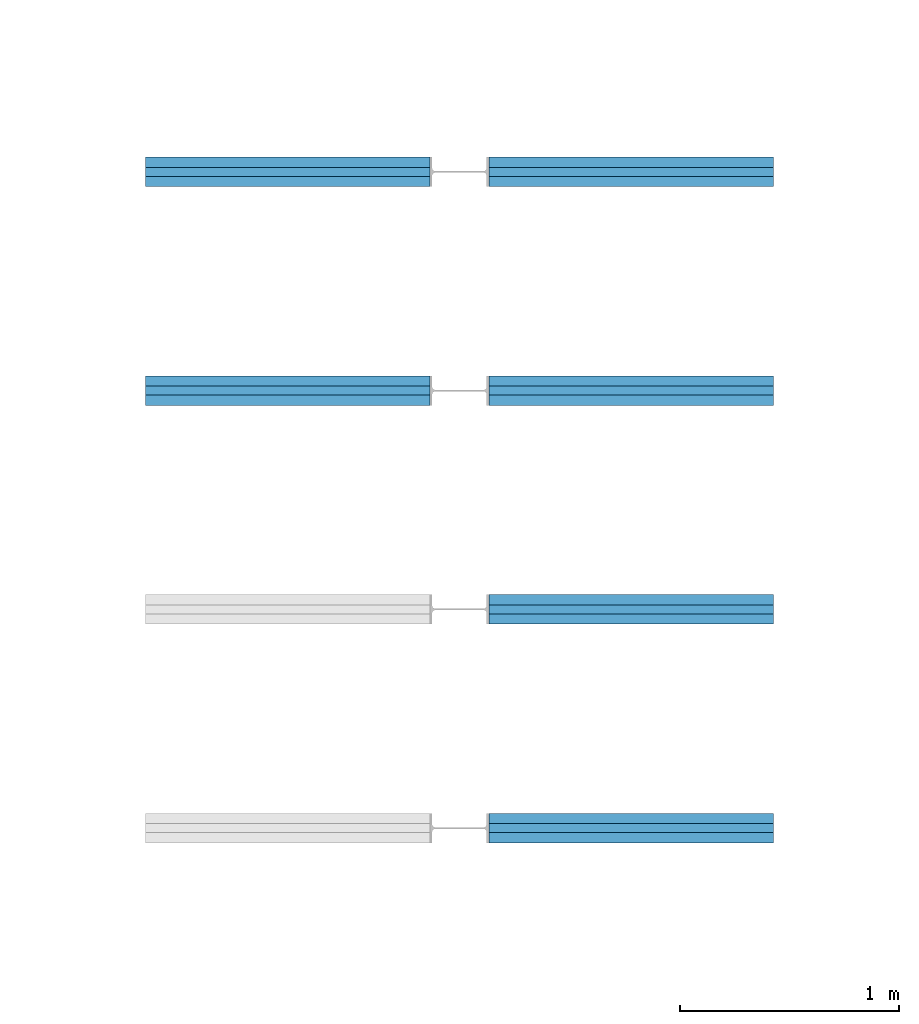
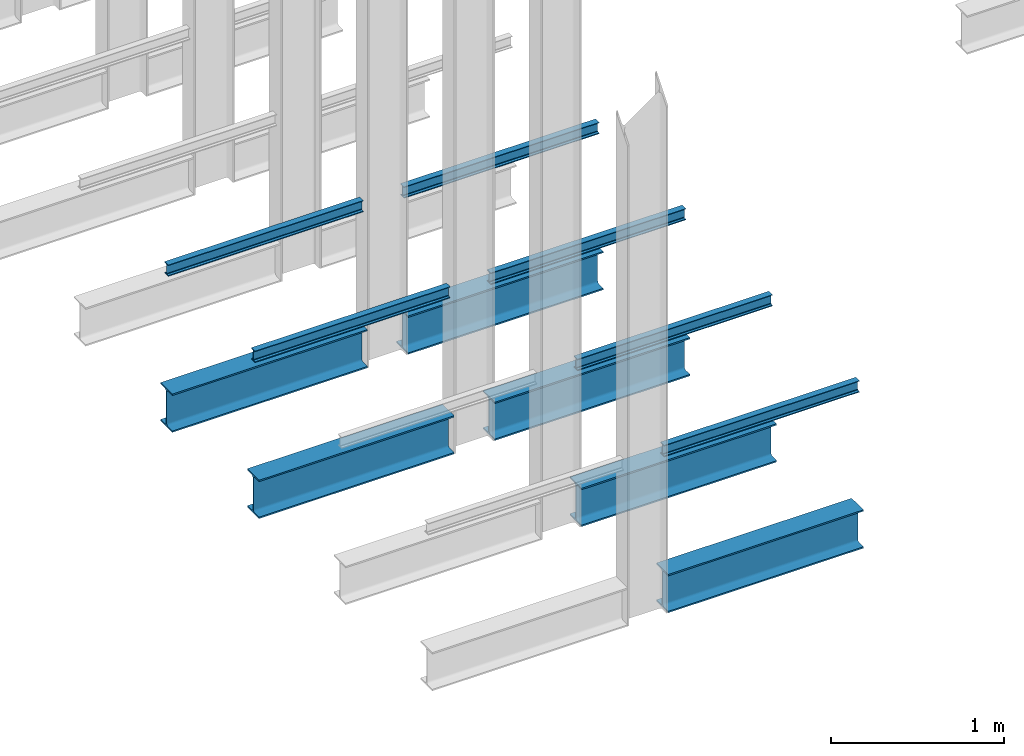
# One storey, part 158 of 302: 12 beams.
"""IFC2X3 building model written with IfcOpenShell, lengths in metres."""

import ifcopenshell
import ifcopenshell.guid

model = None  # the IFC model being written
_history = None  # IfcOwnerHistory: only IFC2X3 demands one
_inside = {}  # id of a spatial element -> (the spatial element, [elements in it])
_under = {}  # id of a project, library or spatial element -> (it, [spatial elements below it])
_declared = {}  # id of a project -> (the project, [libraries it declares])
_typed = {}  # id of a type object -> (the type object, [elements of that type])
_made_of = {}  # id of a material, layer set ... -> (it, [elements and type objects made of it])


def new_model(schema):
    """Start an empty IFC model of exactly this schema.

    Asked for "IFC4X3", IfcOpenShell would pick the latest addendum, in which some entities
    have other attributes; the version numbers below select the first issue.
    IFC2X3 requires an IfcOwnerHistory on every rooted entity: one is made here for all.
    """
    global model, _history
    if schema == "IFC4X3":
        model = ifcopenshell.file(schema_version=(4, 3, 0, 0))
    else:
        model = ifcopenshell.file(schema=schema)
    _inside.clear()
    _under.clear()
    _declared.clear()
    _typed.clear()
    _made_of.clear()
    _history = None
    if model.schema == "IFC2X3":
        org = make("IfcOrganization", Name="unknown")
        user = make(
            "IfcPersonAndOrganization",
            ThePerson=make("IfcPerson", FamilyName="unknown"),
            TheOrganization=org,
        )
        app = make(
            "IfcApplication",
            ApplicationDeveloper=org,
            Version="unknown",
            ApplicationFullName="unknown",
            ApplicationIdentifier="unknown",
        )
        _history = make(
            "IfcOwnerHistory",
            OwningUser=user,
            OwningApplication=app,
            ChangeAction="ADDED",
            CreationDate=0,
        )
    return model


def make(cls, **values):
    """One entity of the class cls with the attributes given. An attribute that is None is left unset."""
    return model.create_entity(
        cls, **{name: value for name, value in values.items() if value is not None}
    )


def entity(cls, *values):
    """Any entity or typed value of the class cls, its attributes in the order of the schema. None: left unset."""
    e = model.create_entity(cls)
    for i, value in enumerate(values):
        if value is not None:
            e[i] = value
    return e


def rooted(cls, **values):
    """An entity with a GlobalId (a new one), such as an element, a storey or a relation."""
    return make(cls, GlobalId=ifcopenshell.guid.new(), OwnerHistory=_history, **values)


def si_unit(unit_type, name, prefix=None):
    """IfcSIUnit, for example si_unit("LENGTHUNIT", "METRE", prefix="MILLI")."""
    return make("IfcSIUnit", UnitType=unit_type, Prefix=prefix, Name=name)


def converted_unit(unit_type, name, factor, base, dimensions=None, offset=None):
    """IfcConversionBasedUnit, such as the inch: factor (a typed value) times the base unit."""
    return make(
        "IfcConversionBasedUnit"
        if offset is None
        else "IfcConversionBasedUnitWithOffset",
        ConversionOffset=offset,
        Dimensions=None
        if dimensions is None
        else entity("IfcDimensionalExponents", *dimensions),
        UnitType=unit_type,
        Name=name,
        ConversionFactor=make(
            "IfcMeasureWithUnit", ValueComponent=factor, UnitComponent=base
        ),
    )


def derived_unit(unit_type, elements):
    """IfcDerivedUnit: a product of units, each with its exponent."""
    return make(
        "IfcDerivedUnit",
        Elements=[
            make("IfcDerivedUnitElement", Unit=unit, Exponent=power)
            for unit, power in elements
        ],
        UnitType=unit_type,
    )


def assignment(units):
    """IfcUnitAssignment: the units of a project."""
    return None if units is None else make("IfcUnitAssignment", Units=units)


def point(xyz):
    """IfcCartesianPoint."""
    return None if xyz is None else make("IfcCartesianPoint", Coordinates=xyz)


def direction(xyz):
    """IfcDirection."""
    return None if xyz is None else make("IfcDirection", DirectionRatios=xyz)


def frame(location, z_axis=None, x_axis=None):
    """IfcAxis2Placement3D, a coordinate frame: its origin and axes. An axis left out is left unset."""
    return make(
        "IfcAxis2Placement3D",
        Location=point(location),
        Axis=direction(z_axis),
        RefDirection=direction(x_axis),
    )


def frame_2d(location, x_axis=None):
    """IfcAxis2Placement2D, a coordinate frame in the plane: its origin and x axis."""
    return make(
        "IfcAxis2Placement2D", Location=point(location), RefDirection=direction(x_axis)
    )


def origin():
    """The frame at (0, 0, 0) with its axes left unset."""
    return frame((0.0, 0.0, 0.0))


def place(relative_to, where):
    """IfcLocalPlacement: puts the frame where relative to a parent placement (None: the world)."""
    return make(
        "IfcLocalPlacement", PlacementRelTo=relative_to, RelativePlacement=where
    )


def context(
    kind, dimensions, precision=None, world=None, true_north=None, identifier=None
):
    """IfcGeometricRepresentationContext, for example the 3D "Model" context."""
    return make(
        "IfcGeometricRepresentationContext",
        ContextIdentifier=identifier,
        ContextType=kind,
        CoordinateSpaceDimension=dimensions,
        Precision=precision,
        WorldCoordinateSystem=world,
        TrueNorth=true_north,
    )


def subcontext(parent, identifier, kind, view, scale=None):
    """IfcGeometricRepresentationSubContext, for example "Body" below "Model"."""
    return make(
        "IfcGeometricRepresentationSubContext",
        ContextIdentifier=identifier,
        ContextType=kind,
        ParentContext=parent,
        TargetScale=scale,
        TargetView=view,
    )


def project(units=None, contexts=None):
    """IfcProject with its units and contexts."""
    return rooted(
        "IfcProject",
        Name="project",
        RepresentationContexts=contexts,
        UnitsInContext=assignment(units),
    )


def spatial(cls, under=None, at=None, **own):
    """A site, building, storey or space (cls), placed at a placement, below another one or the project."""
    s = rooted(cls, ObjectPlacement=at, **own)
    if under is not None:
        _under.setdefault(under.id(), (under, []))[1].append(s)
    return s


def polyline(points):
    """IfcPolyline through the points."""
    return make("IfcPolyline", Points=[point(p) for p in points])


def circle_curve(where, radius):
    """IfcCircle in the frame where."""
    return make("IfcCircle", Position=where, Radius=radius)


def parameter(value):
    """IfcParameterValue: where a trimmed curve begins or ends, as a parameter of its basis curve."""
    return model.create_entity("IfcParameterValue", value)


def trimmed(basis, trim1, trim2, sense, master):
    """IfcTrimmedCurve: the piece of a basis curve between two trims."""
    return make(
        "IfcTrimmedCurve",
        BasisCurve=basis,
        Trim1=trim1,
        Trim2=trim2,
        SenseAgreement=sense,
        MasterRepresentation=master,
    )


def segment(curve, same_sense, transition):
    """IfcCompositeCurveSegment."""
    return make(
        "IfcCompositeCurveSegment",
        Transition=transition,
        SameSense=same_sense,
        ParentCurve=curve,
    )


def composite_curve(segments, self_intersect=None):
    """IfcCompositeCurve: segments joined end to end."""
    return make("IfcCompositeCurve", Segments=segments, SelfIntersect=self_intersect)


def profile(cls, at=None, kind="AREA", **sizes):
    """A parametric profile (cls). Its sizes go by their IFC names, for example OverallWidth=200.0."""
    return make(cls, ProfileType=kind, Position=at, **sizes)


def i_section(**sizes):
    """IfcIShapeProfileDef."""
    return profile("IfcIShapeProfileDef", **sizes)


def outline(outer, holes=None, kind="AREA"):
    """IfcArbitraryClosedProfileDef: a profile drawn as a closed curve; with holes, ...WithVoids."""
    if holes is None:
        return make("IfcArbitraryClosedProfileDef", ProfileType=kind, OuterCurve=outer)
    return make(
        "IfcArbitraryProfileDefWithVoids",
        ProfileType=kind,
        OuterCurve=outer,
        InnerCurves=holes,
    )


def extrude(swept, where, along, depth):
    """IfcExtrudedAreaSolid: the profile swept, set in the frame where, extruded along a direction by depth."""
    return make(
        "IfcExtrudedAreaSolid",
        SweptArea=swept,
        Position=where,
        ExtrudedDirection=direction(along),
        Depth=depth,
    )


def shape(context_of_items, identifier, shape_type, items):
    """IfcShapeRepresentation: the items that make up one representation, for example the "Body"."""
    return make(
        "IfcShapeRepresentation",
        ContextOfItems=context_of_items,
        RepresentationIdentifier=identifier,
        RepresentationType=shape_type,
        Items=items,
    )


def material(Name=None, Category=None):
    """IfcMaterial."""
    return make("IfcMaterial", Name=Name, Category=Category)


def made_of(thing, what):
    """Note that an element or type object is made of a material, layer set ...; save() writes the relation."""
    if what is not None:
        _made_of.setdefault(what.id(), (what, []))[1].append(thing)
    return thing


def type_object(cls, material=None, **own):
    """A type object (cls), such as IfcWallType, which elements share."""
    return made_of(rooted(cls, **own), material)


def element(
    cls,
    number,
    at=None,
    inside=None,
    cuts=None,
    type_object=None,
    material=None,
    context=None,
    identifier="Body",
    shape_type=None,
    held_by="IfcProductDefinitionShape",
    body=None,
    shapes=None,
    **own,
):
    """One element of the class cls, such as IfcWall. Its Tag is "e" and its number.

    at: its placement. inside: the storey or other place that contains it. cuts: it is an
    opening in that element (IfcRelVoidsElement). A single representation is given by context,
    identifier, shape_type and body (its items); several are given by shapes. held_by: the class
    of the entity that holds the representations. save() writes the other relations.
    """
    e = rooted(cls, Tag="e%d" % number, ObjectPlacement=at, **own)
    if body is not None:
        shapes = [shape(context, identifier, shape_type, body)]
    if shapes is not None:
        e.Representation = make(held_by, Representations=shapes)
    if inside is not None:
        _inside.setdefault(inside.id(), (inside, []))[1].append(e)
    if cuts is not None:
        rooted(
            "IfcRelVoidsElement", RelatingBuildingElement=cuts, RelatedOpeningElement=e
        )
    if type_object is not None:
        _typed.setdefault(type_object.id(), (type_object, []))[1].append(e)
    return made_of(e, material)


def aggregate(whole, parts):
    """IfcRelAggregates: a whole, such as a stair, and the parts it consists of."""
    return rooted("IfcRelAggregates", RelatingObject=whole, RelatedObjects=parts)


def save(model, path):
    """Write the relations noted so far, then the file.

    IfcRelAggregates (storeys below a building ...), IfcRelContainedInSpatialStructure (elements
    in a storey), IfcRelDefinesByType, IfcRelAssociatesMaterial and IfcRelDeclares: one each for
    every whole, place, type object, material and project.
    """
    for whole, parts in _under.values():
        aggregate(whole, parts)
    for where, things in _inside.values():
        rooted(
            "IfcRelContainedInSpatialStructure",
            RelatedElements=things,
            RelatingStructure=where,
        )
    for kind, things in _typed.values():
        rooted("IfcRelDefinesByType", RelatedObjects=things, RelatingType=kind)
    for what, things in _made_of.values():
        rooted("IfcRelAssociatesMaterial", RelatedObjects=things, RelatingMaterial=what)
    for by, libraries in _declared.values():
        rooted("IfcRelDeclares", RelatingContext=by, RelatedDefinitions=libraries)
    model.write(path)


model = new_model("IFC2X3")

# Units and contexts
model_context = context("Model", 3, precision=1e-05, world=origin(), true_north=direction((6.12303176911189e-17, 1.0)))
body_context = subcontext(model_context, "Body", "Model", "MODEL_VIEW")
ifc_project = project(units=[si_unit("LENGTHUNIT", "METRE"), si_unit("AREAUNIT", "SQUARE_METRE"), si_unit("VOLUMEUNIT", "CUBIC_METRE"), converted_unit("PLANEANGLEUNIT", "DEGREE", entity("IfcRatioMeasure", 0.0174532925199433), si_unit("PLANEANGLEUNIT", "RADIAN"), dimensions=[0, 0, 0, 0, 0, 0, 0]), si_unit("MASSUNIT", "GRAM", prefix="KILO"), derived_unit("MASSDENSITYUNIT", [(si_unit("MASSUNIT", "GRAM", prefix="KILO"), 1), (si_unit("LENGTHUNIT", "METRE"), -3)]), derived_unit("MOMENTOFINERTIAUNIT", [(si_unit("LENGTHUNIT", "METRE"), 4)]), si_unit("TIMEUNIT", "SECOND"), si_unit("FREQUENCYUNIT", "HERTZ"), si_unit("THERMODYNAMICTEMPERATUREUNIT", "DEGREE_CELSIUS"), derived_unit("THERMALTRANSMITTANCEUNIT", [(si_unit("MASSUNIT", "GRAM", prefix="KILO"), 1), (si_unit("THERMODYNAMICTEMPERATUREUNIT", "KELVIN"), -1), (si_unit("TIMEUNIT", "SECOND"), -3)]), derived_unit("VOLUMETRICFLOWRATEUNIT", [(si_unit("LENGTHUNIT", "METRE"), 3), (si_unit("TIMEUNIT", "SECOND"), -1)]), si_unit("ELECTRICCURRENTUNIT", "AMPERE"), si_unit("ELECTRICVOLTAGEUNIT", "VOLT"), si_unit("POWERUNIT", "WATT"), si_unit("FORCEUNIT", "NEWTON", prefix="KILO"), si_unit("ILLUMINANCEUNIT", "LUX"), si_unit("LUMINOUSFLUXUNIT", "LUMEN"), si_unit("LUMINOUSINTENSITYUNIT", "CANDELA"), derived_unit("USERDEFINED", [(si_unit("MASSUNIT", "GRAM", prefix="KILO"), -1), (si_unit("LENGTHUNIT", "METRE"), -2), (si_unit("TIMEUNIT", "SECOND"), 3), (si_unit("LUMINOUSFLUXUNIT", "LUMEN"), 1)]), derived_unit("LINEARVELOCITYUNIT", [(si_unit("LENGTHUNIT", "METRE"), 1), (si_unit("TIMEUNIT", "SECOND"), -1)]), si_unit("PRESSUREUNIT", "PASCAL"), derived_unit("USERDEFINED", [(si_unit("LENGTHUNIT", "METRE"), -2), (si_unit("MASSUNIT", "GRAM", prefix="KILO"), 1), (si_unit("TIMEUNIT", "SECOND"), -2)]), derived_unit("LINEARFORCEUNIT", [(si_unit("MASSUNIT", "GRAM", prefix="KILO"), 1), (si_unit("LENGTHUNIT", "METRE"), 1), (si_unit("TIMEUNIT", "SECOND"), -2), (si_unit("LENGTHUNIT", "METRE"), -1)]), derived_unit("PLANARFORCEUNIT", [(si_unit("MASSUNIT", "GRAM", prefix="KILO"), 1), (si_unit("LENGTHUNIT", "METRE"), 1), (si_unit("TIMEUNIT", "SECOND"), -2), (si_unit("LENGTHUNIT", "METRE"), -2)])], contexts=[model_context])

# Site, building, storey
site_placement = place(None, origin())
site = spatial("IfcSite", under=ifc_project, at=site_placement, Name="Default", CompositionType="ELEMENT")
building_placement = place(site_placement, origin())
building = spatial("IfcBuilding", under=site, at=building_placement, CompositionType="ELEMENT")
storey_placement = place(building_placement, frame((0.0, 0.0, -1.3)))
storey = spatial("IfcBuildingStorey", under=building, at=storey_placement, Name="00_EG", CompositionType="ELEMENT", Elevation=-1.3)

# Beams
ifc_material = material(Name="Metall - Baustahl S235")
beam_type_1 = type_object("IfcBeamType", Name="IPN Träger:IPN 80", PredefinedType="NOTDEFINED")
beam_1_placement = place(storey_placement, frame((-170.510111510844, 26.994588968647, 2.42)))
element("IfcBeam", 1, at=beam_1_placement, inside=storey, type_object=beam_type_1, material=ifc_material, Name="IPN Träger:IPN 80", ObjectType="IPN Träger:IPN 80", context=body_context, shape_type="SweptSolid", body=[
    extrude(outline(composite_curve([segment(polyline([(0.0375704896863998, -0.0210000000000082), (0.0399999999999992, -0.0210000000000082)]), True, "CONTINUOUS"), segment(polyline([(0.0399999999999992, -0.0210000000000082), (0.0399999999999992, 0.0209999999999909)]), True, "CONTINUOUS"), segment(polyline([(0.039999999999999, 0.0209999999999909), (0.037570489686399, 0.0209999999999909)]), True, "CONTINUOUS"), segment(trimmed(circle_curve(frame_2d((0.037570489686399, 0.0186999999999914), x_axis=(0.0, 1.0)), 0.00230000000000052), [parameter(0.0)], [parameter(82.0299999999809)], True, "PARAMETER"), True, "CONTINUOUS"), segment(polyline([(0.0352927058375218, 0.019018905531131), (0.0333732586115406, 0.00530924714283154)]), True, "CONTINUOUS"), segment(trimmed(circle_curve(frame_2d((0.0295109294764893, 0.00584999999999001), x_axis=(0.990340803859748, -0.138654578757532)), 0.00389999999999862), [parameter(277.969999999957)], [parameter(0.0)], True, "PARAMETER"), False, "CONTINUOUS"), segment(polyline([(0.0295109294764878, 0.00194999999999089), (-0.0295109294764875, 0.00194999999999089)]), True, "CONTINUOUS"), segment(trimmed(circle_curve(frame_2d((-0.029510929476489, 0.00584999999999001), x_axis=(0.0, -1.0)), 0.00389999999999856), [parameter(277.969999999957)], [parameter(0.0)], True, "PARAMETER"), False, "CONTINUOUS"), segment(polyline([(-0.0333732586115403, 0.00530924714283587), (-0.0352927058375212, 0.0190189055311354)]), True, "CONTINUOUS"), segment(trimmed(circle_curve(frame_2d((-0.0375704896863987, 0.0186999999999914), x_axis=(0.990340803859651, 0.138654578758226)), 0.00230000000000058), [parameter(0.0)], [parameter(82.029999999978)], True, "PARAMETER"), True, "CONTINUOUS"), segment(polyline([(-0.0375704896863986, 0.0209999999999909), (-0.0400000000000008, 0.0209999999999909)]), True, "CONTINUOUS"), segment(polyline([(-0.0400000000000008, 0.0209999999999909), (-0.0400000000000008, -0.0210000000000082)]), True, "CONTINUOUS"), segment(polyline([(-0.0400000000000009, -0.0210000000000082), (-0.037570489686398, -0.0210000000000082)]), True, "CONTINUOUS"), segment(trimmed(circle_curve(frame_2d((-0.0375704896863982, -0.0187000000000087), x_axis=(0.0, -1.0)), 0.00230000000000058), [parameter(0.0)], [parameter(82.029999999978)], True, "PARAMETER"), True, "CONTINUOUS"), segment(polyline([(-0.0352927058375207, -0.0190189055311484), (-0.0333732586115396, -0.0053092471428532)]), True, "CONTINUOUS"), segment(trimmed(circle_curve(frame_2d((-0.0295109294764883, -0.00585000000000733), x_axis=(-0.990340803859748, 0.138654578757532)), 0.00389999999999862), [parameter(277.969999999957)], [parameter(0.0)], True, "PARAMETER"), False, "CONTINUOUS"), segment(polyline([(-0.0295109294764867, -0.00195000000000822), (0.0295109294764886, -0.00195000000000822)]), True, "CONTINUOUS"), segment(trimmed(circle_curve(frame_2d((0.0295109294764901, -0.00585000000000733), x_axis=(0.0, 1.0)), 0.00389999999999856), [parameter(277.969999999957)], [parameter(0.0)], True, "PARAMETER"), False, "CONTINUOUS"), segment(polyline([(0.0333732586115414, -0.0053092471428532), (0.0352927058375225, -0.0190189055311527)]), True, "CONTINUOUS"), segment(trimmed(circle_curve(frame_2d((0.0375704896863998, -0.0187000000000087), x_axis=(-0.990340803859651, -0.138654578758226)), 0.00230000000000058), [parameter(0.0)], [parameter(82.029999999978)], True, "PARAMETER"), True, "CONTINUOUS")], self_intersect=False)), frame((0.000100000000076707, 0.0210000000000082, -0.0400000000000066), z_axis=(1.0, 0.0, 0.0), x_axis=(0.0, 0.0, -1.0)), (0.0, 0.0, 1.0), 1.29990000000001),
])
beam_2_placement = place(storey_placement, frame((-170.780111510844, 27.036588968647, 2.42), z_axis=(0.0, 0.0, 1.0), x_axis=(-1.0, 0.0, 0.0)))
element("IfcBeam", 2, at=beam_2_placement, inside=storey, type_object=beam_type_1, material=ifc_material, Name="IPN Träger:IPN 80", ObjectType="IPN Träger:IPN 80", context=body_context, shape_type="SweptSolid", body=[
    extrude(outline(composite_curve([segment(polyline([(0.0375704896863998, -0.0210000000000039), (0.0399999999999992, -0.0210000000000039)]), True, "CONTINUOUS"), segment(polyline([(0.0399999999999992, -0.0210000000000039), (0.0399999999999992, 0.0209999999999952)]), True, "CONTINUOUS"), segment(polyline([(0.039999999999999, 0.0209999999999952), (0.037570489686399, 0.0209999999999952)]), True, "CONTINUOUS"), segment(trimmed(circle_curve(frame_2d((0.037570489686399, 0.0186999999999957), x_axis=(0.0, 1.0)), 0.00230000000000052), [parameter(0.0)], [parameter(82.0299999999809)], True, "PARAMETER"), True, "CONTINUOUS"), segment(polyline([(0.0352927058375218, 0.0190189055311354), (0.0333732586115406, 0.00530924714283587)]), True, "CONTINUOUS"), segment(trimmed(circle_curve(frame_2d((0.0295109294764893, 0.00584999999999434), x_axis=(0.990340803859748, -0.138654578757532)), 0.00389999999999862), [parameter(277.969999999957)], [parameter(0.0)], True, "PARAMETER"), False, "CONTINUOUS"), segment(polyline([(0.0295109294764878, 0.00194999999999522), (-0.0295109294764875, 0.00194999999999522)]), True, "CONTINUOUS"), segment(trimmed(circle_curve(frame_2d((-0.029510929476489, 0.00584999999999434), x_axis=(0.0, -1.0)), 0.00389999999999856), [parameter(277.969999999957)], [parameter(0.0)], True, "PARAMETER"), False, "CONTINUOUS"), segment(polyline([(-0.0333732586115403, 0.0053092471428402), (-0.0352927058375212, 0.0190189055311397)]), True, "CONTINUOUS"), segment(trimmed(circle_curve(frame_2d((-0.0375704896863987, 0.0186999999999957), x_axis=(0.990340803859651, 0.138654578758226)), 0.00230000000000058), [parameter(0.0)], [parameter(82.029999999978)], True, "PARAMETER"), True, "CONTINUOUS"), segment(polyline([(-0.0375704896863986, 0.0209999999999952), (-0.0400000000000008, 0.0209999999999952)]), True, "CONTINUOUS"), segment(polyline([(-0.0400000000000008, 0.0209999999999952), (-0.0400000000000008, -0.0210000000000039)]), True, "CONTINUOUS"), segment(polyline([(-0.0400000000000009, -0.0210000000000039), (-0.037570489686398, -0.0210000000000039)]), True, "CONTINUOUS"), segment(trimmed(circle_curve(frame_2d((-0.0375704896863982, -0.0187000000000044), x_axis=(0.0, -1.0)), 0.00230000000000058), [parameter(0.0)], [parameter(82.029999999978)], True, "PARAMETER"), True, "CONTINUOUS"), segment(polyline([(-0.0352927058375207, -0.019018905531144), (-0.0333732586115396, -0.00530924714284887)]), True, "CONTINUOUS"), segment(trimmed(circle_curve(frame_2d((-0.0295109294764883, -0.005850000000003), x_axis=(-0.990340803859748, 0.138654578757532)), 0.00389999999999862), [parameter(277.969999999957)], [parameter(0.0)], True, "PARAMETER"), False, "CONTINUOUS"), segment(polyline([(-0.0295109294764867, -0.00195000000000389), (0.0295109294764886, -0.00195000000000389)]), True, "CONTINUOUS"), segment(trimmed(circle_curve(frame_2d((0.0295109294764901, -0.005850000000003), x_axis=(0.0, 1.0)), 0.00389999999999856), [parameter(277.969999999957)], [parameter(0.0)], True, "PARAMETER"), False, "CONTINUOUS"), segment(polyline([(0.0333732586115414, -0.00530924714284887), (0.0352927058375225, -0.0190189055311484)]), True, "CONTINUOUS"), segment(trimmed(circle_curve(frame_2d((0.0375704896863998, -0.0187000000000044), x_axis=(-0.990340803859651, -0.138654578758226)), 0.00230000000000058), [parameter(0.0)], [parameter(82.029999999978)], True, "PARAMETER"), True, "CONTINUOUS")], self_intersect=False)), frame((0.000100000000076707, 0.0210000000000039, -0.0400000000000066), z_axis=(1.0, 0.0, 0.0), x_axis=(0.0, 0.0, -1.0)), (0.0, 0.0, 1.0), 1.29990000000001),
])
beam_3_placement = place(storey_placement, frame((-170.510111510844, 25.994588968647, 2.42)))
element("IfcBeam", 3, at=beam_3_placement, inside=storey, type_object=beam_type_1, material=ifc_material, Name="IPN Träger:IPN 80", ObjectType="IPN Träger:IPN 80", context=body_context, shape_type="SweptSolid", body=[
    extrude(outline(composite_curve([segment(polyline([(0.0375704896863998, -0.0209999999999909), (0.0399999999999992, -0.0209999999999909)]), True, "CONTINUOUS"), segment(polyline([(0.0399999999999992, -0.0209999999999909), (0.0399999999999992, 0.0210000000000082)]), True, "CONTINUOUS"), segment(polyline([(0.039999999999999, 0.0210000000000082), (0.037570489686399, 0.0210000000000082)]), True, "CONTINUOUS"), segment(trimmed(circle_curve(frame_2d((0.037570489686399, 0.0187000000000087), x_axis=(0.0, 1.0)), 0.00230000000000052), [parameter(0.0)], [parameter(82.0299999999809)], True, "PARAMETER"), True, "CONTINUOUS"), segment(polyline([(0.0352927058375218, 0.0190189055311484), (0.0333732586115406, 0.00530924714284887)]), True, "CONTINUOUS"), segment(trimmed(circle_curve(frame_2d((0.0295109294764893, 0.00585000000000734), x_axis=(0.990340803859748, -0.138654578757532)), 0.00389999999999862), [parameter(277.969999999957)], [parameter(0.0)], True, "PARAMETER"), False, "CONTINUOUS"), segment(polyline([(0.0295109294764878, 0.00195000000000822), (-0.0295109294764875, 0.00195000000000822)]), True, "CONTINUOUS"), segment(trimmed(circle_curve(frame_2d((-0.029510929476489, 0.00585000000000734), x_axis=(0.0, -1.0)), 0.00389999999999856), [parameter(277.969999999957)], [parameter(0.0)], True, "PARAMETER"), False, "CONTINUOUS"), segment(polyline([(-0.0333732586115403, 0.0053092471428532), (-0.0352927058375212, 0.0190189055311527)]), True, "CONTINUOUS"), segment(trimmed(circle_curve(frame_2d((-0.0375704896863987, 0.0187000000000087), x_axis=(0.990340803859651, 0.138654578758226)), 0.00230000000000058), [parameter(0.0)], [parameter(82.029999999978)], True, "PARAMETER"), True, "CONTINUOUS"), segment(polyline([(-0.0375704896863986, 0.0210000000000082), (-0.0400000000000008, 0.0210000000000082)]), True, "CONTINUOUS"), segment(polyline([(-0.0400000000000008, 0.0210000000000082), (-0.0400000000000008, -0.0209999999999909)]), True, "CONTINUOUS"), segment(polyline([(-0.0400000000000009, -0.0209999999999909), (-0.037570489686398, -0.0209999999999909)]), True, "CONTINUOUS"), segment(trimmed(circle_curve(frame_2d((-0.0375704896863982, -0.0186999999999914), x_axis=(0.0, -1.0)), 0.00230000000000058), [parameter(0.0)], [parameter(82.029999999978)], True, "PARAMETER"), True, "CONTINUOUS"), segment(polyline([(-0.0352927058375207, -0.019018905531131), (-0.0333732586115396, -0.00530924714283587)]), True, "CONTINUOUS"), segment(trimmed(circle_curve(frame_2d((-0.0295109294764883, -0.00584999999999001), x_axis=(-0.990340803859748, 0.138654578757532)), 0.00389999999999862), [parameter(277.969999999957)], [parameter(0.0)], True, "PARAMETER"), False, "CONTINUOUS"), segment(polyline([(-0.0295109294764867, -0.00194999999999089), (0.0295109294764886, -0.00194999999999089)]), True, "CONTINUOUS"), segment(trimmed(circle_curve(frame_2d((0.0295109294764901, -0.00584999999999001), x_axis=(0.0, 1.0)), 0.00389999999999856), [parameter(277.969999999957)], [parameter(0.0)], True, "PARAMETER"), False, "CONTINUOUS"), segment(polyline([(0.0333732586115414, -0.00530924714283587), (0.0352927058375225, -0.0190189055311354)]), True, "CONTINUOUS"), segment(trimmed(circle_curve(frame_2d((0.0375704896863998, -0.0186999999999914), x_axis=(-0.990340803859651, -0.138654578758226)), 0.00230000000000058), [parameter(0.0)], [parameter(82.029999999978)], True, "PARAMETER"), True, "CONTINUOUS")], self_intersect=False)), frame((0.000100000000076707, 0.0209999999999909, -0.0400000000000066), z_axis=(1.0, 0.0, 0.0), x_axis=(0.0, 0.0, -1.0)), (0.0, 0.0, 1.0), 1.29990000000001),
])
beam_4_placement = place(storey_placement, frame((-170.780111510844, 26.036588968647, 2.42), z_axis=(0.0, 0.0, 1.0), x_axis=(-1.0, 0.0, 0.0)))
element("IfcBeam", 4, at=beam_4_placement, inside=storey, type_object=beam_type_1, material=ifc_material, Name="IPN Träger:IPN 80", ObjectType="IPN Träger:IPN 80", context=body_context, shape_type="SweptSolid", body=[
    extrude(outline(composite_curve([segment(polyline([(0.0375704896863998, -0.0209999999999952), (0.0399999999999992, -0.0209999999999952)]), True, "CONTINUOUS"), segment(polyline([(0.0399999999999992, -0.0209999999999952), (0.0399999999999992, 0.0210000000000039)]), True, "CONTINUOUS"), segment(polyline([(0.039999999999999, 0.0210000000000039), (0.037570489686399, 0.0210000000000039)]), True, "CONTINUOUS"), segment(trimmed(circle_curve(frame_2d((0.037570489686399, 0.0187000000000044), x_axis=(0.0, 1.0)), 0.00230000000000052), [parameter(0.0)], [parameter(82.0299999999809)], True, "PARAMETER"), True, "CONTINUOUS"), segment(polyline([(0.0352927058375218, 0.019018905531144), (0.0333732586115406, 0.00530924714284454)]), True, "CONTINUOUS"), segment(trimmed(circle_curve(frame_2d((0.0295109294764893, 0.005850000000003), x_axis=(0.990340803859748, -0.138654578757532)), 0.00389999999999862), [parameter(277.969999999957)], [parameter(0.0)], True, "PARAMETER"), False, "CONTINUOUS"), segment(polyline([(0.0295109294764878, 0.00195000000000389), (-0.0295109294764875, 0.00195000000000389)]), True, "CONTINUOUS"), segment(trimmed(circle_curve(frame_2d((-0.029510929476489, 0.005850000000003), x_axis=(0.0, -1.0)), 0.00389999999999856), [parameter(277.969999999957)], [parameter(0.0)], True, "PARAMETER"), False, "CONTINUOUS"), segment(polyline([(-0.0333732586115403, 0.00530924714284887), (-0.0352927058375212, 0.0190189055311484)]), True, "CONTINUOUS"), segment(trimmed(circle_curve(frame_2d((-0.0375704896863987, 0.0187000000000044), x_axis=(0.990340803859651, 0.138654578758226)), 0.00230000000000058), [parameter(0.0)], [parameter(82.029999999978)], True, "PARAMETER"), True, "CONTINUOUS"), segment(polyline([(-0.0375704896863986, 0.0210000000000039), (-0.0400000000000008, 0.0210000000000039)]), True, "CONTINUOUS"), segment(polyline([(-0.0400000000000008, 0.0210000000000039), (-0.0400000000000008, -0.0209999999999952)]), True, "CONTINUOUS"), segment(polyline([(-0.0400000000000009, -0.0209999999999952), (-0.037570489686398, -0.0209999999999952)]), True, "CONTINUOUS"), segment(trimmed(circle_curve(frame_2d((-0.0375704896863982, -0.0186999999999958), x_axis=(0.0, -1.0)), 0.00230000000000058), [parameter(0.0)], [parameter(82.029999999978)], True, "PARAMETER"), True, "CONTINUOUS"), segment(polyline([(-0.0352927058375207, -0.0190189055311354), (-0.0333732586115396, -0.00530924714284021)]), True, "CONTINUOUS"), segment(trimmed(circle_curve(frame_2d((-0.0295109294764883, -0.00584999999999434), x_axis=(-0.990340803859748, 0.138654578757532)), 0.00389999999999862), [parameter(277.969999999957)], [parameter(0.0)], True, "PARAMETER"), False, "CONTINUOUS"), segment(polyline([(-0.0295109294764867, -0.00194999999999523), (0.0295109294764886, -0.00194999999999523)]), True, "CONTINUOUS"), segment(trimmed(circle_curve(frame_2d((0.0295109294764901, -0.00584999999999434), x_axis=(0.0, 1.0)), 0.00389999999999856), [parameter(277.969999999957)], [parameter(0.0)], True, "PARAMETER"), False, "CONTINUOUS"), segment(polyline([(0.0333732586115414, -0.00530924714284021), (0.0352927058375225, -0.0190189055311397)]), True, "CONTINUOUS"), segment(trimmed(circle_curve(frame_2d((0.0375704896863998, -0.0186999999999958), x_axis=(-0.990340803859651, -0.138654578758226)), 0.00230000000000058), [parameter(0.0)], [parameter(82.029999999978)], True, "PARAMETER"), True, "CONTINUOUS")], self_intersect=False)), frame((0.000100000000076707, 0.0209999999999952, -0.0400000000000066), z_axis=(1.0, 0.0, 0.0), x_axis=(0.0, 0.0, -1.0)), (0.0, 0.0, 1.0), 1.29990000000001),
])
beam_5_placement = place(storey_placement, frame((-170.510111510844, 24.994588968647, 2.42)))
element("IfcBeam", 5, at=beam_5_placement, inside=storey, type_object=beam_type_1, material=ifc_material, Name="IPN Träger:IPN 80", ObjectType="IPN Träger:IPN 80", context=body_context, shape_type="SweptSolid", body=[
    extrude(outline(composite_curve([segment(polyline([(0.0375704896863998, -0.0209999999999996), (0.0399999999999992, -0.0209999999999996)]), True, "CONTINUOUS"), segment(polyline([(0.0399999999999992, -0.0209999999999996), (0.0399999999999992, 0.0209999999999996)]), True, "CONTINUOUS"), segment(polyline([(0.039999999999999, 0.0209999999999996), (0.037570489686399, 0.0209999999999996)]), True, "CONTINUOUS"), segment(trimmed(circle_curve(frame_2d((0.037570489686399, 0.0187000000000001), x_axis=(0.0, 1.0)), 0.00230000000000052), [parameter(0.0)], [parameter(82.0299999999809)], True, "PARAMETER"), True, "CONTINUOUS"), segment(polyline([(0.0352927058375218, 0.0190189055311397), (0.0333732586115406, 0.00530924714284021)]), True, "CONTINUOUS"), segment(trimmed(circle_curve(frame_2d((0.0295109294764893, 0.00584999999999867), x_axis=(0.990340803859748, -0.138654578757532)), 0.00389999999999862), [parameter(277.969999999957)], [parameter(0.0)], True, "PARAMETER"), False, "CONTINUOUS"), segment(polyline([(0.0295109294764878, 0.00194999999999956), (-0.0295109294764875, 0.00194999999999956)]), True, "CONTINUOUS"), segment(trimmed(circle_curve(frame_2d((-0.029510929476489, 0.00584999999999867), x_axis=(0.0, -1.0)), 0.00389999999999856), [parameter(277.969999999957)], [parameter(0.0)], True, "PARAMETER"), False, "CONTINUOUS"), segment(polyline([(-0.0333732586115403, 0.00530924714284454), (-0.0352927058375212, 0.019018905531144)]), True, "CONTINUOUS"), segment(trimmed(circle_curve(frame_2d((-0.0375704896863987, 0.0187000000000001), x_axis=(0.990340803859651, 0.138654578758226)), 0.00230000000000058), [parameter(0.0)], [parameter(82.029999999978)], True, "PARAMETER"), True, "CONTINUOUS"), segment(polyline([(-0.0375704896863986, 0.0209999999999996), (-0.0400000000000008, 0.0209999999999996)]), True, "CONTINUOUS"), segment(polyline([(-0.0400000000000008, 0.0209999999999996), (-0.0400000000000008, -0.0209999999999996)]), True, "CONTINUOUS"), segment(polyline([(-0.0400000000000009, -0.0209999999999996), (-0.037570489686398, -0.0209999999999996)]), True, "CONTINUOUS"), segment(trimmed(circle_curve(frame_2d((-0.0375704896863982, -0.0187000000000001), x_axis=(0.0, -1.0)), 0.00230000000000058), [parameter(0.0)], [parameter(82.029999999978)], True, "PARAMETER"), True, "CONTINUOUS"), segment(polyline([(-0.0352927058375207, -0.0190189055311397), (-0.0333732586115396, -0.00530924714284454)]), True, "CONTINUOUS"), segment(trimmed(circle_curve(frame_2d((-0.0295109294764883, -0.00584999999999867), x_axis=(-0.990340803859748, 0.138654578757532)), 0.00389999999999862), [parameter(277.969999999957)], [parameter(0.0)], True, "PARAMETER"), False, "CONTINUOUS"), segment(polyline([(-0.0295109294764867, -0.00194999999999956), (0.0295109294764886, -0.00194999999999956)]), True, "CONTINUOUS"), segment(trimmed(circle_curve(frame_2d((0.0295109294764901, -0.00584999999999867), x_axis=(0.0, 1.0)), 0.00389999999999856), [parameter(277.969999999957)], [parameter(0.0)], True, "PARAMETER"), False, "CONTINUOUS"), segment(polyline([(0.0333732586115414, -0.00530924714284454), (0.0352927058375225, -0.019018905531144)]), True, "CONTINUOUS"), segment(trimmed(circle_curve(frame_2d((0.0375704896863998, -0.0187000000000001), x_axis=(-0.990340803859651, -0.138654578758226)), 0.00230000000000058), [parameter(0.0)], [parameter(82.029999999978)], True, "PARAMETER"), True, "CONTINUOUS")], self_intersect=False)), frame((0.000100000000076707, 0.0209999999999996, -0.0400000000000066), z_axis=(1.0, 0.0, 0.0), x_axis=(0.0, 0.0, -1.0)), (0.0, 0.0, 1.0), 1.29990000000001),
])
beam_6_placement = place(storey_placement, frame((-170.510111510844, 23.994588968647, 2.42)))
element("IfcBeam", 6, at=beam_6_placement, inside=storey, type_object=beam_type_1, material=ifc_material, Name="IPN Träger:IPN 80", ObjectType="IPN Träger:IPN 80", context=body_context, shape_type="SweptSolid", body=[
    extrude(outline(composite_curve([segment(polyline([(0.0375704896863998, -0.0210000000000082), (0.0399999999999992, -0.0210000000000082)]), True, "CONTINUOUS"), segment(polyline([(0.0399999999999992, -0.0210000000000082), (0.0399999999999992, 0.0209999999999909)]), True, "CONTINUOUS"), segment(polyline([(0.039999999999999, 0.0209999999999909), (0.037570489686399, 0.0209999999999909)]), True, "CONTINUOUS"), segment(trimmed(circle_curve(frame_2d((0.037570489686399, 0.0186999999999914), x_axis=(0.0, 1.0)), 0.00230000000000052), [parameter(0.0)], [parameter(82.0299999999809)], True, "PARAMETER"), True, "CONTINUOUS"), segment(polyline([(0.0352927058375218, 0.019018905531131), (0.0333732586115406, 0.00530924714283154)]), True, "CONTINUOUS"), segment(trimmed(circle_curve(frame_2d((0.0295109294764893, 0.00584999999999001), x_axis=(0.990340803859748, -0.138654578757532)), 0.00389999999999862), [parameter(277.969999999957)], [parameter(0.0)], True, "PARAMETER"), False, "CONTINUOUS"), segment(polyline([(0.0295109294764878, 0.00194999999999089), (-0.0295109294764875, 0.00194999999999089)]), True, "CONTINUOUS"), segment(trimmed(circle_curve(frame_2d((-0.029510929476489, 0.00584999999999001), x_axis=(0.0, -1.0)), 0.00389999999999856), [parameter(277.969999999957)], [parameter(0.0)], True, "PARAMETER"), False, "CONTINUOUS"), segment(polyline([(-0.0333732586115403, 0.00530924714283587), (-0.0352927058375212, 0.0190189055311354)]), True, "CONTINUOUS"), segment(trimmed(circle_curve(frame_2d((-0.0375704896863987, 0.0186999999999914), x_axis=(0.990340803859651, 0.138654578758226)), 0.00230000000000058), [parameter(0.0)], [parameter(82.029999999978)], True, "PARAMETER"), True, "CONTINUOUS"), segment(polyline([(-0.0375704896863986, 0.0209999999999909), (-0.0400000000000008, 0.0209999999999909)]), True, "CONTINUOUS"), segment(polyline([(-0.0400000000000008, 0.0209999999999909), (-0.0400000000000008, -0.0210000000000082)]), True, "CONTINUOUS"), segment(polyline([(-0.0400000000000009, -0.0210000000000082), (-0.037570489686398, -0.0210000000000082)]), True, "CONTINUOUS"), segment(trimmed(circle_curve(frame_2d((-0.0375704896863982, -0.0187000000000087), x_axis=(0.0, -1.0)), 0.00230000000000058), [parameter(0.0)], [parameter(82.029999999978)], True, "PARAMETER"), True, "CONTINUOUS"), segment(polyline([(-0.0352927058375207, -0.0190189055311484), (-0.0333732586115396, -0.0053092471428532)]), True, "CONTINUOUS"), segment(trimmed(circle_curve(frame_2d((-0.0295109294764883, -0.00585000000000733), x_axis=(-0.990340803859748, 0.138654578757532)), 0.00389999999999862), [parameter(277.969999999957)], [parameter(0.0)], True, "PARAMETER"), False, "CONTINUOUS"), segment(polyline([(-0.0295109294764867, -0.00195000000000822), (0.0295109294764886, -0.00195000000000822)]), True, "CONTINUOUS"), segment(trimmed(circle_curve(frame_2d((0.0295109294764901, -0.00585000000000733), x_axis=(0.0, 1.0)), 0.00389999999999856), [parameter(277.969999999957)], [parameter(0.0)], True, "PARAMETER"), False, "CONTINUOUS"), segment(polyline([(0.0333732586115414, -0.0053092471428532), (0.0352927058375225, -0.0190189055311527)]), True, "CONTINUOUS"), segment(trimmed(circle_curve(frame_2d((0.0375704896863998, -0.0187000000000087), x_axis=(-0.990340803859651, -0.138654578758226)), 0.00230000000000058), [parameter(0.0)], [parameter(82.029999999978)], True, "PARAMETER"), True, "CONTINUOUS")], self_intersect=False)), frame((0.000100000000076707, 0.0210000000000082, -0.0400000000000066), z_axis=(1.0, 0.0, 0.0), x_axis=(0.0, 0.0, -1.0)), (0.0, 0.0, 1.0), 1.29990000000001),
])
beam_type_2 = type_object("IfcBeamType", Name="IPE Träger:IPE 270", PredefinedType="NOTDEFINED")
beam_7_placement = place(storey_placement, frame((-170.510111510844, 24.083088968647, 1.54000000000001)))
element("IfcBeam", 7, at=beam_7_placement, inside=storey, type_object=beam_type_2, material=ifc_material, Name="IPE Träger:IPE 270", ObjectType="IPE Träger:IPE 270", context=body_context, shape_type="SweptSolid", body=[
    extrude(i_section(OverallWidth=0.134999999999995, OverallDepth=0.27, WebThickness=0.00660000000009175, FlangeThickness=0.0102000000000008, FilletRadius=0.0150000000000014, at=frame_2d((5.96744875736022e-16, 2.16493489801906e-15), x_axis=(0.0, 1.0))), frame((0.000100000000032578, -0.0674999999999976, -0.135000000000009), z_axis=(1.0, 0.0, 0.0), x_axis=(0.0, 0.0, -1.0)), (0.0, 0.0, 1.0), 1.29990000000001),
])
beam_8_placement = place(storey_placement, frame((-170.510111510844, 25.083088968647, 1.54000000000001)))
element("IfcBeam", 8, at=beam_8_placement, inside=storey, type_object=beam_type_2, material=ifc_material, Name="IPE Träger:IPE 270", ObjectType="IPE Träger:IPE 270", context=body_context, shape_type="SweptSolid", body=[
    extrude(i_section(OverallWidth=0.134999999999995, OverallDepth=0.27, WebThickness=0.00660000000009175, FlangeThickness=0.0102000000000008, FilletRadius=0.0150000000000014, at=frame_2d((5.96744875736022e-16, 2.16493489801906e-15), x_axis=(0.0, 1.0))), frame((0.000100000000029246, -0.0674999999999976, -0.135000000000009), z_axis=(1.0, 0.0, 0.0), x_axis=(0.0, 0.0, -1.0)), (0.0, 0.0, 1.0), 1.29990000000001),
])
beam_9_placement = place(storey_placement, frame((-170.780111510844, 26.083088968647, 1.54000000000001), z_axis=(0.0, 0.0, 1.0), x_axis=(-1.0, 0.0, 0.0)))
element("IfcBeam", 9, at=beam_9_placement, inside=storey, type_object=beam_type_2, material=ifc_material, Name="IPE Träger:IPE 270", ObjectType="IPE Träger:IPE 270", context=body_context, shape_type="SweptSolid", body=[
    extrude(i_section(OverallWidth=0.134999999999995, OverallDepth=0.27, WebThickness=0.00660000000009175, FlangeThickness=0.0102000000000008, FilletRadius=0.0150000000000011, at=frame_2d((5.96744875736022e-16, 2.16493489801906e-15), x_axis=(0.0, 1.0))), frame((0.000100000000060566, 0.0674999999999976, -0.135000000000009), z_axis=(1.0, 0.0, 0.0), x_axis=(0.0, 0.0, -1.0)), (0.0, 0.0, 1.0), 1.29990000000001),
])
beam_10_placement = place(storey_placement, frame((-170.510111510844, 26.083088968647, 1.54000000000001)))
element("IfcBeam", 10, at=beam_10_placement, inside=storey, type_object=beam_type_2, material=ifc_material, Name="IPE Träger:IPE 270", ObjectType="IPE Träger:IPE 270", context=body_context, shape_type="SweptSolid", body=[
    extrude(i_section(OverallWidth=0.134999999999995, OverallDepth=0.27, WebThickness=0.00660000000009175, FlangeThickness=0.0102000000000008, FilletRadius=0.0150000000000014, at=frame_2d((5.96744875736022e-16, -6.49480469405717e-15), x_axis=(0.0, 1.0))), frame((0.000100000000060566, -0.067499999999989, -0.135000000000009), z_axis=(1.0, 0.0, 0.0), x_axis=(0.0, 0.0, -1.0)), (0.0, 0.0, 1.0), 1.29990000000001),
])
beam_11_placement = place(storey_placement, frame((-170.780111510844, 27.083088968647, 1.54000000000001), z_axis=(0.0, 0.0, 1.0), x_axis=(-1.0, 0.0, 0.0)))
element("IfcBeam", 11, at=beam_11_placement, inside=storey, type_object=beam_type_2, material=ifc_material, Name="IPE Träger:IPE 270", ObjectType="IPE Träger:IPE 270", context=body_context, shape_type="SweptSolid", body=[
    extrude(i_section(OverallWidth=0.134999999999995, OverallDepth=0.27, WebThickness=0.00660000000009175, FlangeThickness=0.0102000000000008, FilletRadius=0.0150000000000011, at=frame_2d((5.96744875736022e-16, -2.16493489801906e-15), x_axis=(0.0, 1.0))), frame((0.000100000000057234, 0.067500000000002, -0.135000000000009), z_axis=(1.0, 0.0, 0.0), x_axis=(0.0, 0.0, -1.0)), (0.0, 0.0, 1.0), 1.29990000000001),
])
beam_12_placement = place(storey_placement, frame((-170.510111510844, 27.083088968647, 1.54000000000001)))
element("IfcBeam", 12, at=beam_12_placement, inside=storey, type_object=beam_type_2, material=ifc_material, Name="IPE Träger:IPE 270", ObjectType="IPE Träger:IPE 270", context=body_context, shape_type="SweptSolid", body=[
    extrude(i_section(OverallWidth=0.134999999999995, OverallDepth=0.27, WebThickness=0.00660000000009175, FlangeThickness=0.0102000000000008, FilletRadius=0.0150000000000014, at=frame_2d((5.96744875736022e-16, -2.16493489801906e-15), x_axis=(0.0, 1.0))), frame((0.000100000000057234, -0.0674999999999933, -0.135000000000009), z_axis=(1.0, 0.0, 0.0), x_axis=(0.0, 0.0, -1.0)), (0.0, 0.0, 1.0), 1.29990000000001),
])

save(model, "model.ifc")
